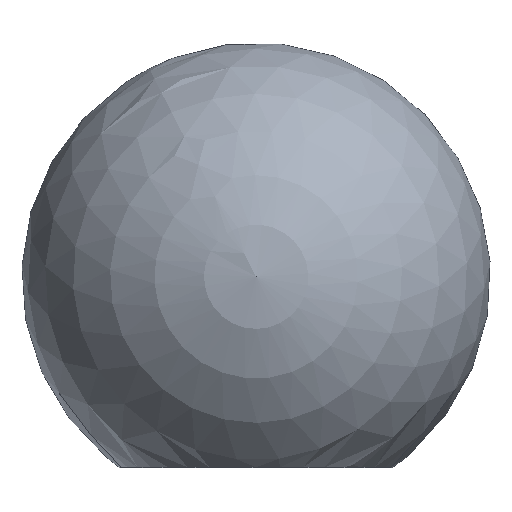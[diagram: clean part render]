
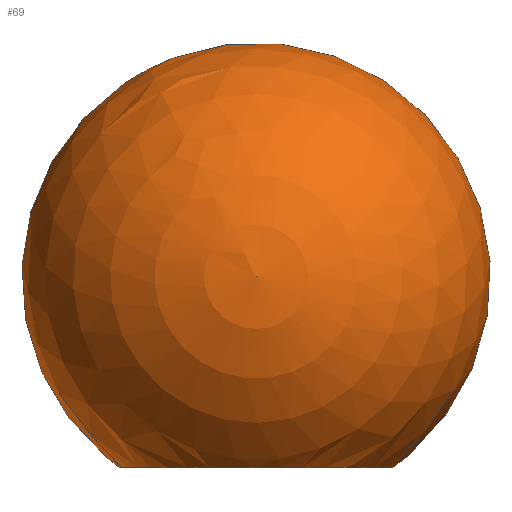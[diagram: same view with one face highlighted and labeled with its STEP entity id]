
A CAD part, top view. The second image highlights one B-rep face of the part: STEP entity #69.
In plain terms, the highlighted spherical face has radius 16 mm.
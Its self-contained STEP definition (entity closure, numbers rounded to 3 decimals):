
#17 = CARTESIAN_POINT ( 'NONE',  ( 0., 0., 0. ) ) ;
#19 = DIRECTION ( 'NONE',  ( 0., -1., 0. ) ) ;
#21 = DIRECTION ( 'NONE',  ( 0., 0., -1. ) ) ;
#36 = VERTEX_POINT ( 'NONE', #38 ) ;
#38 = CARTESIAN_POINT ( 'NONE',  ( 0., 0., -9.327 ) ) ;
#54 = SPHERICAL_SURFACE ( 'NONE', #106, 16. ) ;
#56 = ORIENTED_EDGE ( 'NONE', *, *, #120, .F. ) ;
#64 = DIRECTION ( 'NONE',  ( 1., 0., 0. ) ) ;
#68 = AXIS2_PLACEMENT_3D ( 'NONE', #17, #19, #21 ) ;
#69 = ADVANCED_FACE ( 'NONE', ( #142 ), #54, .T. ) ;
#106 = AXIS2_PLACEMENT_3D ( 'NONE', #154, #108, #64 ) ;
#108 = DIRECTION ( 'NONE',  ( 0., 0., 1. ) ) ;
#120 = EDGE_CURVE ( 'NONE', #36, #36, #130, .T. ) ;
#130 = CIRCLE ( 'NONE', #68, 9.327 ) ;
#142 = FACE_OUTER_BOUND ( 'NONE', #144, .T. ) ;
#144 = EDGE_LOOP ( 'NONE', ( #56 ) ) ;
#154 = CARTESIAN_POINT ( 'NONE',  ( 0., 13., 0. ) ) ;
